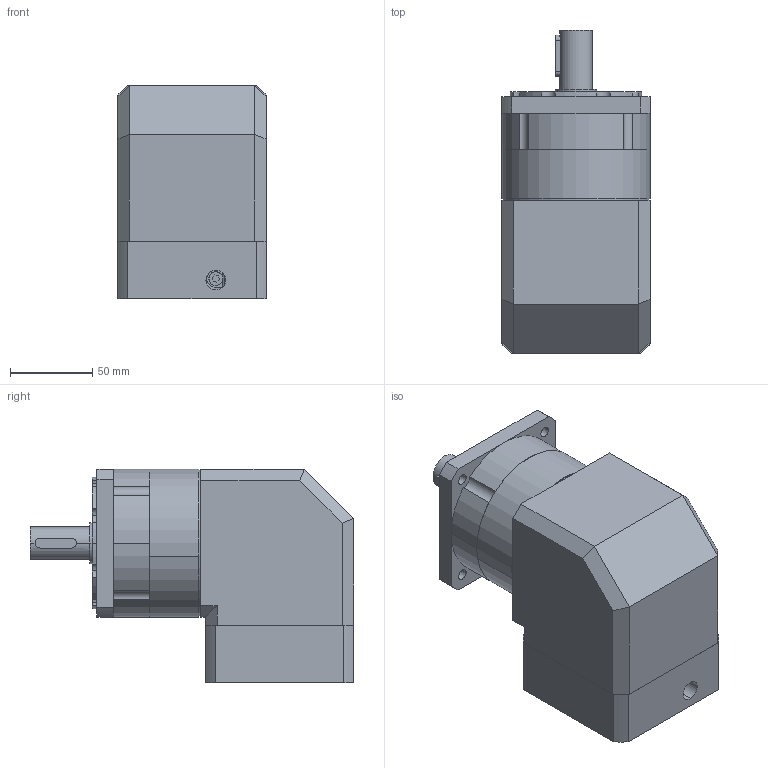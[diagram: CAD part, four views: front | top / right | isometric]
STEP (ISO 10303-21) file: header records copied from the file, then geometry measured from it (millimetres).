
FILE_DESCRIPTION (( 'STEP AP203' ), '1' );
FILE_NAME ('PFZ090-L1-5-86-14x38.STEP', '2020-11-30T02:09:02', ( 'USER-' ), ( 'MS' ), 'SwSTEP 2.0', 'SolidWorks 2018', '' );
FILE_SCHEMA (( 'CONFIG_CONTROL_DESIGN' ));
Length unit declared in the file: millimetre
Products named in the file (9): ____-3206A 30x62x23.8_2^PFZ090-L1(2)_PFZ090-L1; ______ 6x6x25^PFZ090-L1(2)_PFZ090-L1; PFZ090-L1-5-86-14x38; PVFN90 ____^PFZ090-L1(2)_PFZ090-L1; PRF90 _________________^PFZ090-L1(2)_PFZ090-L1; PRF90 ___w_______^PFZ090-L1(2)_PFZ090-L1; PVFN90-______^PFZ090-L1(2)_PFZ090-L1; PVFN90-______-0^PFZ090-L1(2)_PFZ090-L1; M5 x 20^PFZ090-L1(2)_PFZ090-L1
Assembly tree (8 placements, depth 2):
  PFZ090-L1-5-86-14x38
    PVFN90 ____^PFZ090-L1(2)_PFZ090-L1
    PRF90 _________________^PFZ090-L1(2)_PFZ090-L1
    PRF90 ___w_______^PFZ090-L1(2)_PFZ090-L1
    PVFN90-______^PFZ090-L1(2)_PFZ090-L1
    PVFN90-______-0^PFZ090-L1(2)_PFZ090-L1
    M5 x 20^PFZ090-L1(2)_PFZ090-L1
    ____-3206A 30x62x23.8_2^PFZ090-L1(2)_PFZ090-L1
    ______ 6x6x25^PFZ090-L1(2)_PFZ090-L1
Bounding box: 90 x 196.5 x 130 mm (x, y, z)
Volume: 1378675.3 mm3; surface area: 192523.8 mm2
Topology: 8 solids, 8 shells, 602 faces, 1840 edges, 1146 vertices
Faces by surface type: cylinder 202, plane 188, sphere 96, torus 90, cone 26
Entity records: 22011 total; most frequent: CARTESIAN_POINT 5554, ORIENTED_EDGE 3352, DIRECTION 3234, EDGE_CURVE 1676, AXIS2_PLACEMENT_3D 1340, VERTEX_POINT 1098, CIRCLE 727, EDGE_LOOP 686
